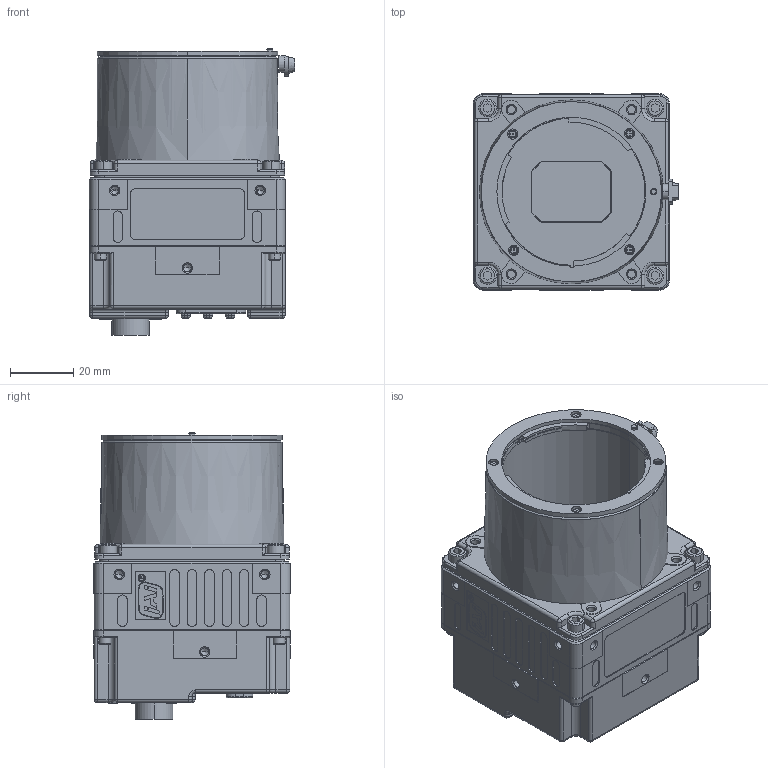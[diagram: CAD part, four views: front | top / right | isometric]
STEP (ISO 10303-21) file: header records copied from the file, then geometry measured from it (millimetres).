
FILE_DESCRIPTION((''),'2;1');
FILE_NAME('SP-20000M-USB_NEW','2015-10-22T',('aso'),(''),'PRO/ENGINEER BY PARAMETRIC TECHNOLOGY CORPORATION, 2014200','PRO/ENGINEER BY PARAMETRIC TECHNOLOGY CORPORATION, 2014200','');
FILE_SCHEMA(('CONFIG_CONTROL_DESIGN'));
Products named in the file (1): SP-20000M-USB_NEW
Bounding box: 64.9 x 62 x 90.6 mm (x, y, z)
Volume: 2085.2 mm3; surface area: 76660.2 mm2
Topology: 32 solids, 36 shells, 3807 faces, 10207 edges, 6539 vertices
Faces by surface type: plane 2399, cylinder 1047, cone 256, torus 58, sphere 43, bspline 4
Entity records: 119118 total; most frequent: CARTESIAN_POINT 22975, ORIENTED_EDGE 20170, DIRECTION 19704, EDGE_CURVE 10094, VECTOR 7362, LINE 7362, VERTEX_POINT 6539, AXIS2_PLACEMENT_3D 6171
